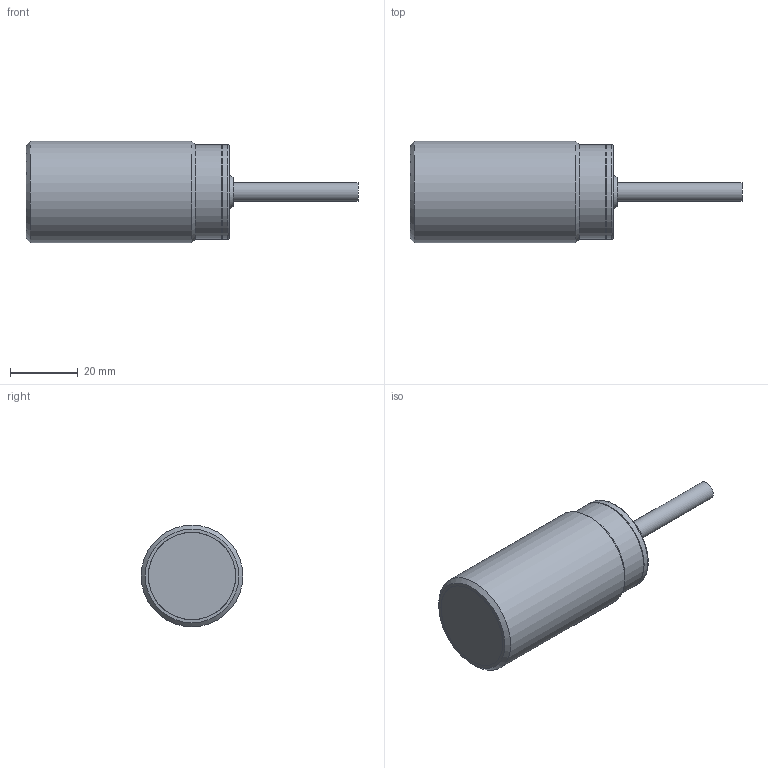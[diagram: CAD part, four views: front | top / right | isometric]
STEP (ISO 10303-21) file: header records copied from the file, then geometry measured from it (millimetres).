
FILE_DESCRIPTION( ( 'Unknown' ), '1' );
FILE_NAME( '//srvmdfs14/Dati/Ricerca&Sviluppo/2_Documenti_Tecnici/1_Disegni_Mec/Figurini/STP/AT1_1A_fig.stp', 'Unknown', ( 'Unknown' ), ( 'Unknown' ), 'PSStep 17.0.49', 'Unknown', ' ' );
FILE_SCHEMA( ( 'AUTOMOTIVE_DESIGN { 1 0 10303 214 1 1 1 1 }' ) );
Length unit declared in the file: millimetre
Products named in the file (5): Assem1; -oa0
Assembly tree (4 placements, depth 2):
  Assem1
    -oa0
    -oa0
    -oa0
    -oa0
Bounding box: 98 x 30 x 30 mm (x, y, z)
Volume: 42228.5 mm3; surface area: 10349.8 mm2
Topology: 4 solids, 4 shells, 22 faces, 35 edges, 23 vertices
Faces by surface type: plane 10, cylinder 7, cone 4, torus 1
Full cylindrical faces by diameter (mm): 5.5 x1, 5.7 x1, 25.75 x1, 25.8 x1, 27.8 x2, 30 x1
Entity records: 503 total; most frequent: DIRECTION 92, CARTESIAN_POINT 65, AXIS2_PLACEMENT_3D 46, EDGE_LOOP 38, ORIENTED_EDGE 38, FACE_OUTER_BOUND 30, ADVANCED_FACE 22, EDGE_CURVE 19
